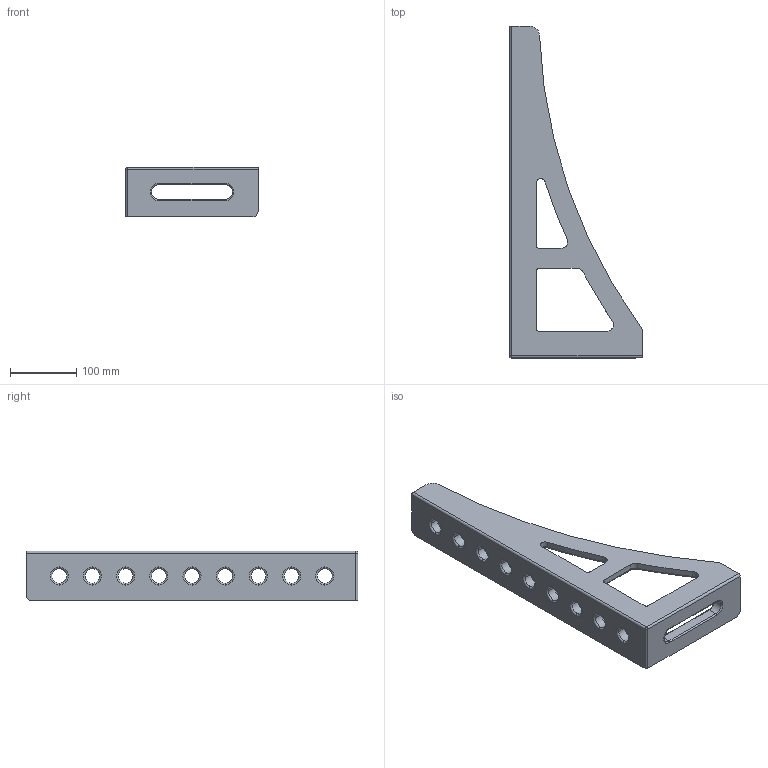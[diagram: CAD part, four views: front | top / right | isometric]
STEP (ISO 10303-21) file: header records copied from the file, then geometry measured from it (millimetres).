
FILE_DESCRIPTION (( 'STEP AP203' ), '1' );
FILE_NAME ('220162.STEP', '2020-03-02T10:49:25', ( '' ), ( '' ), 'SwSTEP 2.0', 'SolidWorks 2019', '' );
FILE_SCHEMA (( 'CONFIG_CONTROL_DESIGN' ));
Length unit declared in the file: millimetre
Products named in the file (1): 220162
Bounding box: 200 x 500 x 75 mm (x, y, z)
Volume: 1200405.5 mm3; surface area: 192040.9 mm2
Topology: 1 solids, 1 shells, 459 faces, 1232 edges, 805 vertices
Faces by surface type: bspline 194, plane 123, cylinder 79, torus 43, cone 18, sphere 2
Entity records: 20985 total; most frequent: CARTESIAN_POINT 10465, ORIENTED_EDGE 2460, DIRECTION 1658, EDGE_CURVE 1230, VERTEX_POINT 805, LINE 558, VECTOR 558, AXIS2_PLACEMENT_3D 550
